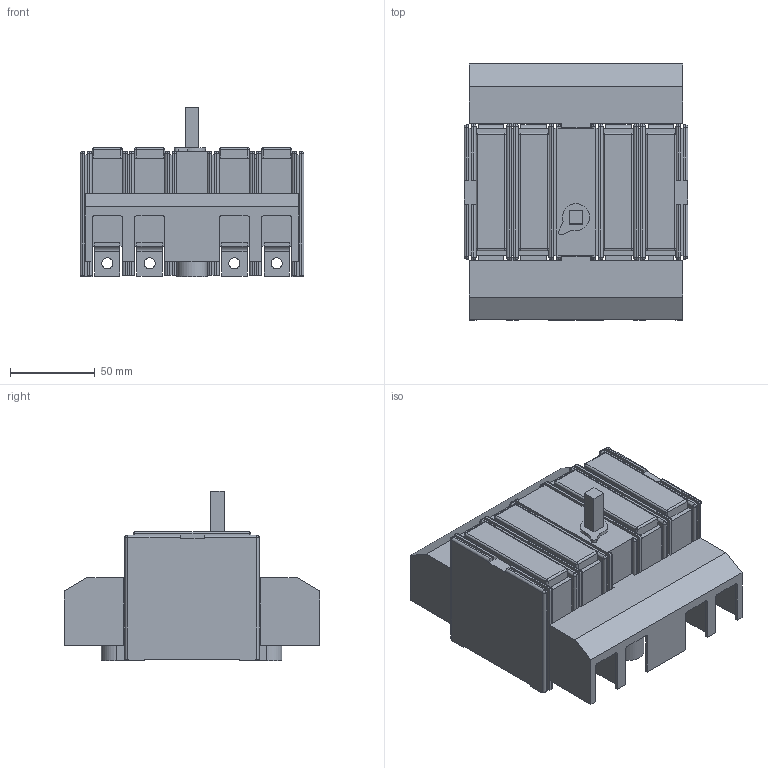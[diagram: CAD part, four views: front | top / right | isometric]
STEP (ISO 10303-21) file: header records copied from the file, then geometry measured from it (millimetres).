
FILE_DESCRIPTION(/* description */ (''),/* implementation_level */ '2;1');
FILE_NAME(/* name */ 'RA100 P3 NA z oslonka zaciskow, RA100 P4 A z oslonka zaciskow.stp',/* time_stamp */ '2021-08-17T12:26:04+02:00',/* author */ (''),/* organization */ (''),/* preprocessor_version */ 'ST-DEVELOPER v18.1',/* originating_system */ 'SIEMENS PLM Software NX 1965',/* authorisation */ '');
FILE_SCHEMA (('AUTOMOTIVE_DESIGN { 1 0 10303 214 3 1 1 1 }'));
Length unit declared in the file: millimetre
Products named in the file (1): RA100 P3 NA z oslonka zaciskow, RA100 P4 A z oslonka zaciskow_stp
Bounding box: 132 x 151.03 x 100 mm (x, y, z)
Volume: 696529 mm3; surface area: 128589.4 mm2
Topology: 1 solids, 1 shells, 493 faces, 1348 edges, 827 vertices
Faces by surface type: plane 312, cylinder 141, sphere 39, bspline 1
Full cylindrical faces by diameter (mm): 5.8 x2, 6.5 x8, 10 x2, 11.5 x2
Entity records: 15026 total; most frequent: CARTESIAN_POINT 2645, ORIENTED_EDGE 2576, DIRECTION 2552, EDGE_CURVE 1288, LINE 1004, VECTOR 1004, VERTEX_POINT 821, AXIS2_PLACEMENT_3D 774
